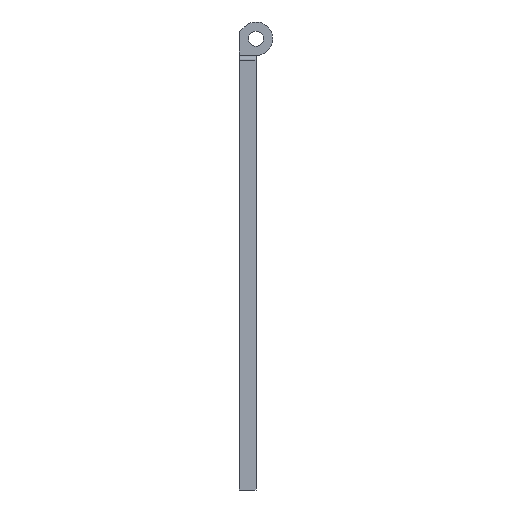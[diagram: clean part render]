
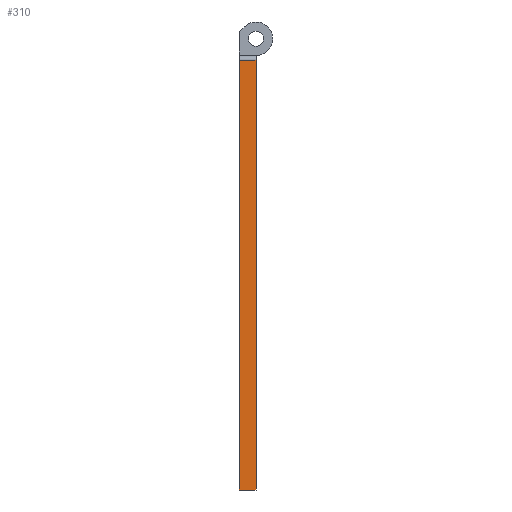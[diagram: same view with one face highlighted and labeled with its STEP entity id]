
A CAD part, left-side view. The second image highlights one B-rep face of the part: STEP entity #310.
In plain terms, the highlighted planar face has unit normal (-1, 0, 0).
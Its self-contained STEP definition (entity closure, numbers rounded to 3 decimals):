
#310 = ADVANCED_FACE ( 'NONE', ( #3745 ), #1532, .F. ) ;
#381 = LINE ( 'NONE', #5599, #382 ) ;
#382 = VECTOR ( 'NONE', #5606, 1000. ) ;
#414 = LINE ( 'NONE', #1825, #416 ) ;
#416 = VECTOR ( 'NONE', #1754, 1000. ) ;
#487 = LINE ( 'NONE', #1277, #489 ) ;
#489 = VECTOR ( 'NONE', #1529, 1000. ) ;
#648 = VERTEX_POINT ( 'NONE', #1678 ) ;
#1068 = VERTEX_POINT ( 'NONE', #5587 ) ;
#1095 = VERTEX_POINT ( 'NONE', #5440 ) ;
#1103 = VERTEX_POINT ( 'NONE', #5505 ) ;
#1277 = CARTESIAN_POINT ( 'NONE',  ( -110., 0., -64.5 ) ) ;
#1448 = DIRECTION ( 'NONE',  ( 1., 0., 0. ) ) ;
#1499 = DIRECTION ( 'NONE',  ( 0., 0., -1. ) ) ;
#1528 = CARTESIAN_POINT ( 'NONE',  ( -110., 5., -64.5 ) ) ;
#1529 = DIRECTION ( 'NONE',  ( 0., 0., 1. ) ) ;
#1532 = PLANE ( 'NONE',  #2486 ) ;
#1678 = CARTESIAN_POINT ( 'NONE',  ( -110., 5., 64.5 ) ) ;
#1754 = DIRECTION ( 'NONE',  ( 0., 0., 1. ) ) ;
#1825 = CARTESIAN_POINT ( 'NONE',  ( -110., 5., -64.5 ) ) ;
#2234 = EDGE_CURVE ( 'NONE', #648, #1068, #381, .T. ) ;
#2281 = EDGE_CURVE ( 'NONE', #1095, #648, #414, .T. ) ;
#2357 = EDGE_CURVE ( 'NONE', #1103, #1068, #487, .T. ) ;
#2486 = AXIS2_PLACEMENT_3D ( 'NONE', #1528, #1448, #1499 ) ;
#2836 = EDGE_CURVE ( 'NONE', #1095, #1103, #3081, .T. ) ;
#3081 = LINE ( 'NONE', #4301, #3082 ) ;
#3082 = VECTOR ( 'NONE', #4307, 1000. ) ;
#3745 = FACE_OUTER_BOUND ( 'NONE', #4419, .T. ) ;
#3878 = ORIENTED_EDGE ( 'NONE', *, *, #2357, .T. ) ;
#3879 = ORIENTED_EDGE ( 'NONE', *, *, #2234, .F. ) ;
#3907 = ORIENTED_EDGE ( 'NONE', *, *, #2281, .F. ) ;
#3908 = ORIENTED_EDGE ( 'NONE', *, *, #2836, .T. ) ;
#4301 = CARTESIAN_POINT ( 'NONE',  ( -110., 5., -64.5 ) ) ;
#4307 = DIRECTION ( 'NONE',  ( 0., -1., 0. ) ) ;
#4419 = EDGE_LOOP ( 'NONE', ( #3878, #3879, #3907, #3908 ) ) ;
#5440 = CARTESIAN_POINT ( 'NONE',  ( -110., 5., -64.5 ) ) ;
#5505 = CARTESIAN_POINT ( 'NONE',  ( -110., 0., -64.5 ) ) ;
#5587 = CARTESIAN_POINT ( 'NONE',  ( -110., 0., 64.5 ) ) ;
#5599 = CARTESIAN_POINT ( 'NONE',  ( -110., 5., 64.5 ) ) ;
#5606 = DIRECTION ( 'NONE',  ( 0., -1., 0. ) ) ;
